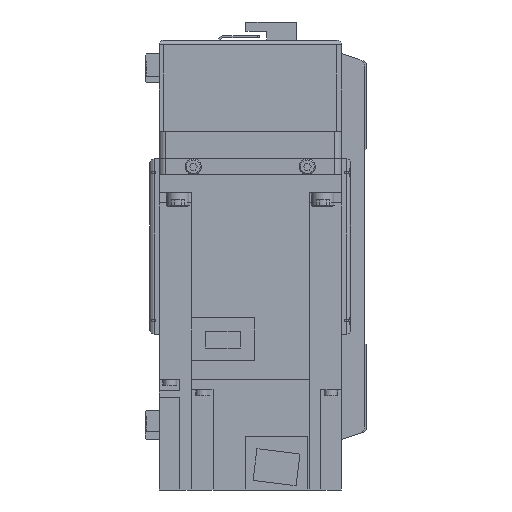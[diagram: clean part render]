
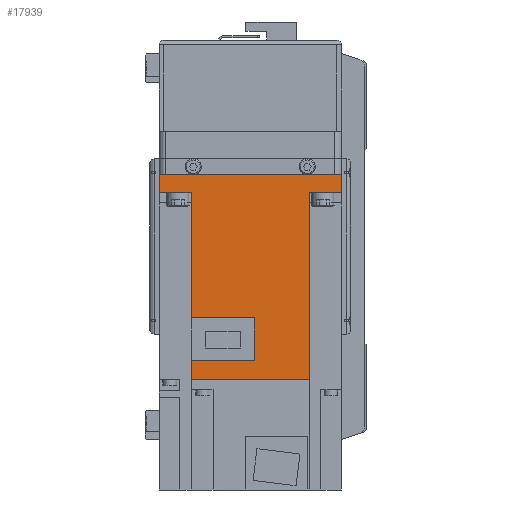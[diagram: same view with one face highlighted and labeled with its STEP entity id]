
A CAD part, left-side view. The second image highlights one B-rep face of the part: STEP entity #17939.
In plain terms, the highlighted planar face has unit normal (-1, 0, 0) as drawn and (1, 0, 0) by its records, which use the part's own axes.
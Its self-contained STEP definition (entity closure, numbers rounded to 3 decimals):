
#1987=ORIENTED_EDGE('',*,*,#6915,.F.);
#1988=ORIENTED_EDGE('',*,*,#6916,.F.);
#1989=ORIENTED_EDGE('',*,*,#6917,.F.);
#1990=ORIENTED_EDGE('',*,*,#6918,.T.);
#1991=ORIENTED_EDGE('',*,*,#6919,.F.);
#1992=ORIENTED_EDGE('',*,*,#6920,.T.);
#1993=ORIENTED_EDGE('',*,*,#6921,.T.);
#1994=ORIENTED_EDGE('',*,*,#6922,.F.);
#1995=ORIENTED_EDGE('',*,*,#6923,.F.);
#1996=ORIENTED_EDGE('',*,*,#6924,.F.);
#1997=ORIENTED_EDGE('',*,*,#6925,.F.);
#1998=ORIENTED_EDGE('',*,*,#6926,.F.);
#6915=EDGE_CURVE('',#9439,#9440,#11221,.T.);
#6916=EDGE_CURVE('',#9441,#9439,#11222,.T.);
#6917=EDGE_CURVE('',#9442,#9441,#11223,.T.);
#6918=EDGE_CURVE('',#9442,#9443,#11224,.T.);
#6919=EDGE_CURVE('',#9444,#9443,#11225,.T.);
#6920=EDGE_CURVE('',#9444,#9445,#11226,.T.);
#6921=EDGE_CURVE('',#9445,#9446,#11227,.T.);
#6922=EDGE_CURVE('',#9447,#9446,#11228,.T.);
#6923=EDGE_CURVE('',#9448,#9447,#11229,.T.);
#6924=EDGE_CURVE('',#9449,#9448,#11230,.T.);
#6925=EDGE_CURVE('',#9450,#9449,#11231,.T.);
#6926=EDGE_CURVE('',#9440,#9450,#11232,.T.);
#9439=VERTEX_POINT('',#27020);
#9440=VERTEX_POINT('',#27021);
#9441=VERTEX_POINT('',#27023);
#9442=VERTEX_POINT('',#27025);
#9443=VERTEX_POINT('',#27027);
#9444=VERTEX_POINT('',#27029);
#9445=VERTEX_POINT('',#27031);
#9446=VERTEX_POINT('',#27033);
#9447=VERTEX_POINT('',#27035);
#9448=VERTEX_POINT('',#27037);
#9449=VERTEX_POINT('',#27039);
#9450=VERTEX_POINT('',#27041);
#11221=LINE('',#27019,#12877);
#11222=LINE('',#27022,#12878);
#11223=LINE('',#27024,#12879);
#11224=LINE('',#27026,#12880);
#11225=LINE('',#27028,#12881);
#11226=LINE('',#27030,#12882);
#11227=LINE('',#27032,#12883);
#11228=LINE('',#27034,#12884);
#11229=LINE('',#27036,#12885);
#11230=LINE('',#27038,#12886);
#11231=LINE('',#27040,#12887);
#11232=LINE('',#27042,#12888);
#12877=VECTOR('',#21537,1000.);
#12878=VECTOR('',#21538,1000.);
#12879=VECTOR('',#21539,1000.);
#12880=VECTOR('',#21540,1000.);
#12881=VECTOR('',#21541,1000.);
#12882=VECTOR('',#21542,1000.);
#12883=VECTOR('',#21543,1000.);
#12884=VECTOR('',#21544,1000.);
#12885=VECTOR('',#21545,1000.);
#12886=VECTOR('',#21546,1000.);
#12887=VECTOR('',#21547,1000.);
#12888=VECTOR('',#21548,1000.);
#14525=EDGE_LOOP('',(#1987,#1988,#1989,#1990,#1991,#1992,#1993,#1994,#1995,
#1996,#1997,#1998));
#15927=FACE_BOUND('',#14525,.T.);
#17222=PLANE('',#19185);
#17939=ADVANCED_FACE('',(#15927),#17222,.F.);
#19185=AXIS2_PLACEMENT_3D('',#27018,#21535,#21536);
#21535=DIRECTION('',(-1.,0.,0.));
#21536=DIRECTION('',(0.,0.,1.));
#21537=DIRECTION('',(0.,0.,1.));
#21538=DIRECTION('',(0.,-1.,0.));
#21539=DIRECTION('',(0.,0.,-1.));
#21540=DIRECTION('',(0.,-1.,0.));
#21541=DIRECTION('',(0.,0.,-1.));
#21542=DIRECTION('',(0.,-1.,0.));
#21543=DIRECTION('',(0.,0.,-1.));
#21544=DIRECTION('',(0.,-1.,0.));
#21545=DIRECTION('',(0.,0.,-1.));
#21546=DIRECTION('',(0.,-1.,0.));
#21547=DIRECTION('',(0.,0.,-1.));
#21548=DIRECTION('',(0.,-1.,0.));
#27018=CARTESIAN_POINT('',(40.,89.8,40.));
#27019=CARTESIAN_POINT('',(40.,81.4,-26.));
#27020=CARTESIAN_POINT('',(40.,81.4,-25.95));
#27021=CARTESIAN_POINT('',(40.,81.4,1.8));
#27022=CARTESIAN_POINT('',(40.,158.,-25.95));
#27023=CARTESIAN_POINT('',(40.,89.8,-25.95));
#27024=CARTESIAN_POINT('',(40.,89.8,40.));
#27025=CARTESIAN_POINT('',(40.,89.8,25.95));
#27026=CARTESIAN_POINT('',(40.,158.,25.95));
#27027=CARTESIAN_POINT('',(40.,8.,25.95));
#27028=CARTESIAN_POINT('',(40.,8.,40.));
#27029=CARTESIAN_POINT('',(40.,8.,40.));
#27030=CARTESIAN_POINT('',(40.,89.8,40.));
#27031=CARTESIAN_POINT('',(40.,0.,40.));
#27032=CARTESIAN_POINT('',(40.,0.,40.));
#27033=CARTESIAN_POINT('',(40.,0.,-40.));
#27034=CARTESIAN_POINT('',(40.,89.8,-40.));
#27035=CARTESIAN_POINT('',(40.,8.,-40.));
#27036=CARTESIAN_POINT('',(40.,8.,40.));
#27037=CARTESIAN_POINT('',(40.,8.,-25.95));
#27038=CARTESIAN_POINT('',(40.,158.,-25.95));
#27039=CARTESIAN_POINT('',(40.,62.8,-25.95));
#27040=CARTESIAN_POINT('',(40.,62.8,1.8));
#27041=CARTESIAN_POINT('',(40.,62.8,1.8));
#27042=CARTESIAN_POINT('',(40.,81.4,1.8));
